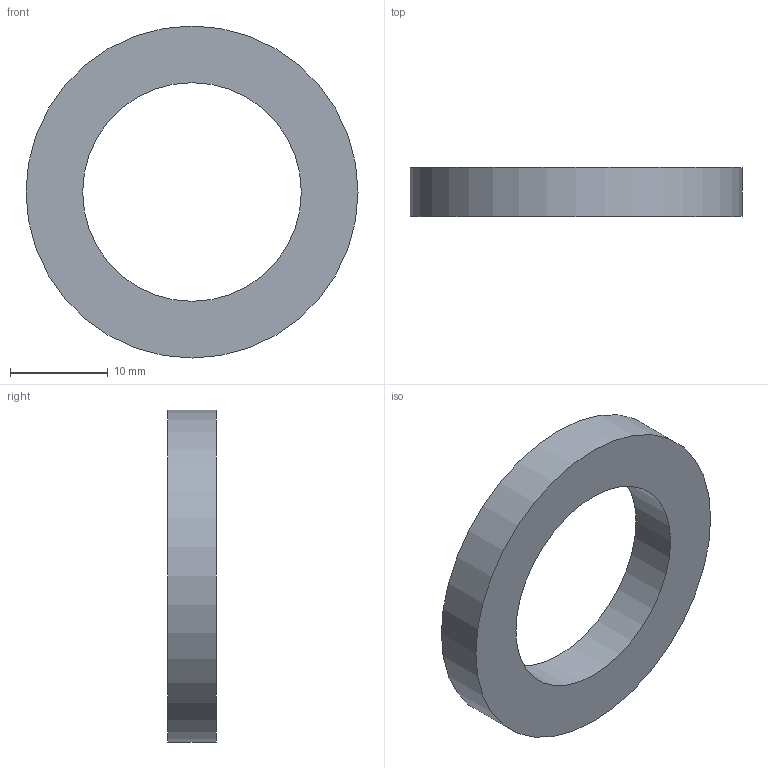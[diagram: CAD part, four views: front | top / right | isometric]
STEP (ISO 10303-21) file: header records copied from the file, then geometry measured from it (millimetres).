
FILE_DESCRIPTION(('Open CASCADE Model'),'2;1');
FILE_NAME('Open CASCADE Shape Model','2026-10-04T01:02:31',('Author'),( 'Open CASCADE'),'Open CASCADE STEP processor 8.0','Open CASCADE 8.0' ,'Unknown');
FILE_SCHEMA(('AUTOMOTIVE_DESIGN { 1 0 10303 214 1 1 1 1 }'));
Length unit declared in the file: millimetre
Products named in the file (1): Open CASCADE STEP translator 8.0 256
Bounding box: 34 x 5 x 34 mm (x, y, z)
Volume: 2569.2 mm3; surface area: 1913.6 mm2
Topology: 1 solids, 1 shells, 4 faces, 6 edges, 4 vertices
Faces by surface type: cylinder 2, plane 2
Full cylindrical faces by diameter (mm): 22.4 x1, 34 x1
Entity records: 186 total; most frequent: DIRECTION 32, CARTESIAN_POINT 27, ORIENTED_EDGE 12, PCURVE 12, DEFINITIONAL_REPRESENTATION 12, LINE 10, VECTOR 10, AXIS2_PLACEMENT_3D 9
